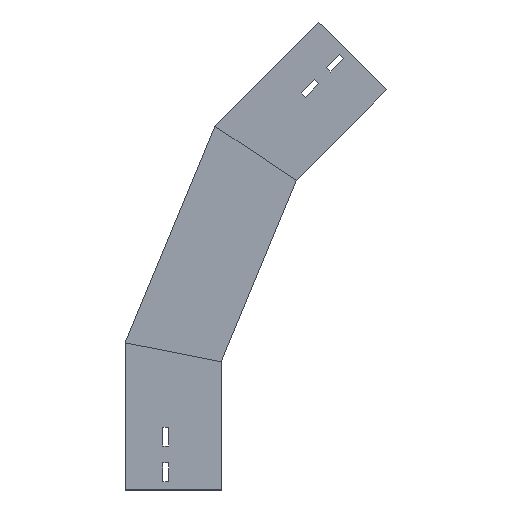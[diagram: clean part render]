
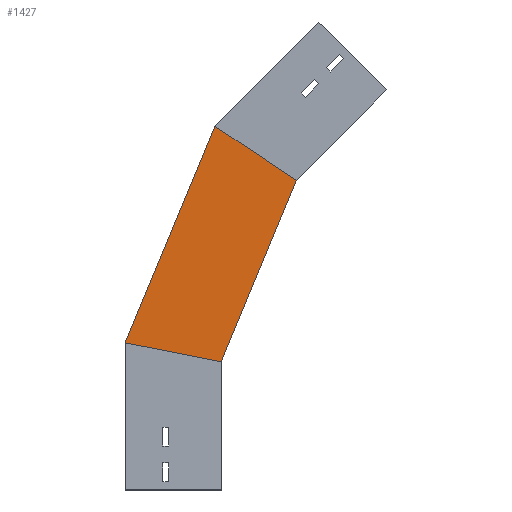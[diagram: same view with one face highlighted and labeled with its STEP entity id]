
A CAD part, left-side view. The second image highlights one B-rep face of the part: STEP entity #1427.
In plain terms, the highlighted planar face has unit normal (-1, 0, 0) as drawn and (1, 0, 0) by its records, which use the part's own axes.
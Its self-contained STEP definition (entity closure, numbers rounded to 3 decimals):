
#85 = VERTEX_POINT ( 'NONE', #862 ) ;
#87 = CARTESIAN_POINT ( 'NONE',  ( 0., 9.458, 127.166 ) ) ;
#111 = AXIS2_PLACEMENT_3D ( 'NONE', #558, #806, #1272 ) ;
#183 = CARTESIAN_POINT ( 'NONE',  ( 0., 112.5, 172.378 ) ) ;
#223 = EDGE_CURVE ( 'NONE', #1025, #85, #1020, .T. ) ;
#346 = VECTOR ( 'NONE', #1261, 1000. ) ;
#444 = ORIENTED_EDGE ( 'NONE', *, *, #865, .T. ) ;
#469 = EDGE_CURVE ( 'NONE', #1330, #1025, #933, .T. ) ;
#475 = VECTOR ( 'NONE', #578, 1000. ) ;
#478 = VECTOR ( 'NONE', #1387, 1000. ) ;
#558 = CARTESIAN_POINT ( 'NONE',  ( 0., 9.458, 127.166 ) ) ;
#578 = DIRECTION ( 'NONE',  ( 0., -0.831, -0.556 ) ) ;
#614 = EDGE_LOOP ( 'NONE', ( #444, #1124, #1407, #1355 ) ) ;
#617 = CARTESIAN_POINT ( 'NONE',  ( 0., 7.356, 426.218 ) ) ;
#675 = LINE ( 'NONE', #1137, #346 ) ;
#683 = LINE ( 'NONE', #1383, #475 ) ;
#780 = VERTEX_POINT ( 'NONE', #617 ) ;
#806 = DIRECTION ( 'NONE',  ( 1., 0., 0. ) ) ;
#814 = FACE_OUTER_BOUND ( 'NONE', #614, .T. ) ;
#817 = CARTESIAN_POINT ( 'NONE',  ( 0., 0., 150. ) ) ;
#862 = CARTESIAN_POINT ( 'NONE',  ( 0., -88.017, 362.492 ) ) ;
#865 = EDGE_CURVE ( 'NONE', #1330, #780, #675, .T. ) ;
#933 = LINE ( 'NONE', #957, #478 ) ;
#957 = CARTESIAN_POINT ( 'NONE',  ( 0., -28.701, 144.291 ) ) ;
#984 = VECTOR ( 'NONE', #1227, 1000. ) ;
#1020 = LINE ( 'NONE', #87, #984 ) ;
#1025 = VERTEX_POINT ( 'NONE', #817 ) ;
#1040 = EDGE_CURVE ( 'NONE', #780, #85, #683, .T. ) ;
#1124 = ORIENTED_EDGE ( 'NONE', *, *, #1040, .T. ) ;
#1137 = CARTESIAN_POINT ( 'NONE',  ( 0., 113.395, 170.218 ) ) ;
#1227 = DIRECTION ( 'NONE',  ( 0., -0.383, 0.924 ) ) ;
#1261 = DIRECTION ( 'NONE',  ( 0., -0.383, 0.924 ) ) ;
#1272 = DIRECTION ( 'NONE',  ( 0., 0., -1. ) ) ;
#1330 = VERTEX_POINT ( 'NONE', #183 ) ;
#1355 = ORIENTED_EDGE ( 'NONE', *, *, #469, .F. ) ;
#1365 = PLANE ( 'NONE',  #111 ) ;
#1383 = CARTESIAN_POINT ( 'NONE',  ( 0., -129.335, 334.885 ) ) ;
#1387 = DIRECTION ( 'NONE',  ( 0., -0.981, -0.195 ) ) ;
#1407 = ORIENTED_EDGE ( 'NONE', *, *, #223, .F. ) ;
#1427 = ADVANCED_FACE ( 'NONE', ( #814 ), #1365, .T. ) ;
